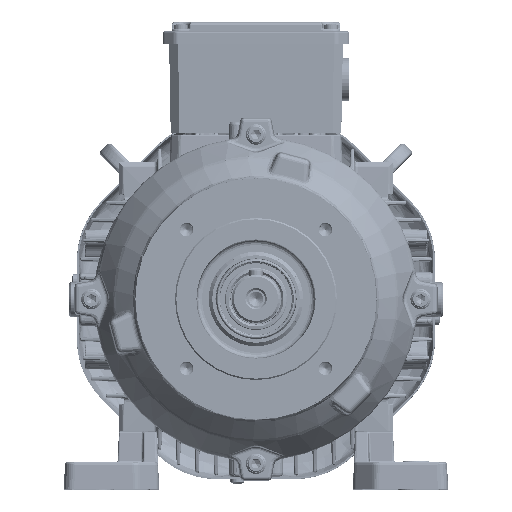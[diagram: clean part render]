
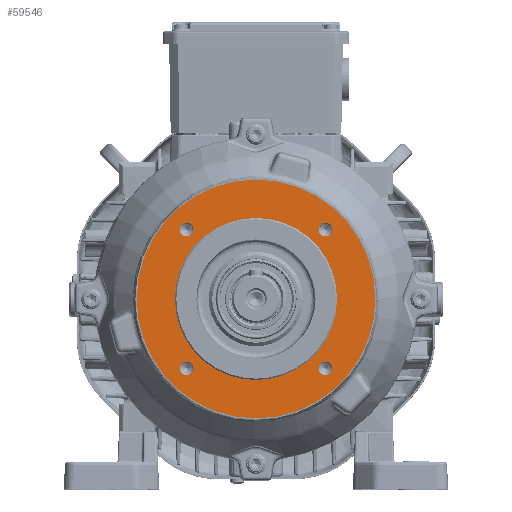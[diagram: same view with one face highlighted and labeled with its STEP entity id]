
A CAD part, top view. The second image highlights one B-rep face of the part: STEP entity #59546.
In plain terms, the highlighted planar face has unit normal (0, 0, 1).
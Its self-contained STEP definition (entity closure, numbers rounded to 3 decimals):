
#50058=PLANE('',#218793);
#59546=ADVANCED_FACE('',(#69683,#69684,#69685,#69686,#69687,#69688),#50058,
 .T.);
#69683=FACE_BOUND('',#79809,.T.);
#69684=FACE_BOUND('',#79810,.T.);
#69685=FACE_BOUND('',#79811,.T.);
#69686=FACE_BOUND('',#79812,.T.);
#69687=FACE_BOUND('',#79813,.T.);
#69688=FACE_BOUND('',#79814,.T.);
#79809=EDGE_LOOP('',(#123803));
#79810=EDGE_LOOP('',(#123804));
#79811=EDGE_LOOP('',(#123805));
#79812=EDGE_LOOP('',(#123806));
#79813=EDGE_LOOP('',(#123807));
#79814=EDGE_LOOP('',(#123808));
#123803=ORIENTED_EDGE('',*,*,#181903,.T.);
#123804=ORIENTED_EDGE('',*,*,#181904,.T.);
#123805=ORIENTED_EDGE('',*,*,#181905,.T.);
#123806=ORIENTED_EDGE('',*,*,#181906,.T.);
#123807=ORIENTED_EDGE('',*,*,#181907,.T.);
#123808=ORIENTED_EDGE('',*,*,#181908,.T.);
#156357=VERTEX_POINT('',#397517);
#156358=VERTEX_POINT('',#397519);
#156359=VERTEX_POINT('',#397521);
#156360=VERTEX_POINT('',#397523);
#156361=VERTEX_POINT('',#397525);
#156362=VERTEX_POINT('',#397527);
#181903=EDGE_CURVE('',#156357,#156357,#199782,.T.);
#181904=EDGE_CURVE('',#156358,#156358,#199783,.T.);
#181905=EDGE_CURVE('',#156359,#156359,#199784,.T.);
#181906=EDGE_CURVE('',#156360,#156360,#199785,.T.);
#181907=EDGE_CURVE('',#156361,#156361,#199786,.T.);
#181908=EDGE_CURVE('',#156362,#156362,#199787,.T.);
#199782=CIRCLE('',#218787,4.);
#199783=CIRCLE('',#218788,4.);
#199784=CIRCLE('',#218789,4.);
#199785=CIRCLE('',#218790,4.);
#199786=CIRCLE('',#218791,47.5);
#199787=CIRCLE('',#218792,70.);
#218787=AXIS2_PLACEMENT_3D('',#397516,#262376,#262377);
#218788=AXIS2_PLACEMENT_3D('',#397518,#262378,#262379);
#218789=AXIS2_PLACEMENT_3D('',#397520,#262380,#262381);
#218790=AXIS2_PLACEMENT_3D('',#397522,#262382,#262383);
#218791=AXIS2_PLACEMENT_3D('',#397524,#262384,#262385);
#218792=AXIS2_PLACEMENT_3D('',#397526,#262386,#262387);
#218793=AXIS2_PLACEMENT_3D('',#397528,#262388,#262389);
#262376=DIRECTION('',(0.,0.,-1.));
#262377=DIRECTION('',(1.,0.,0.));
#262378=DIRECTION('',(0.,0.,-1.));
#262379=DIRECTION('',(1.,0.,0.));
#262380=DIRECTION('',(0.,0.,-1.));
#262381=DIRECTION('',(1.,0.,0.));
#262382=DIRECTION('',(0.,0.,-1.));
#262383=DIRECTION('',(1.,0.,0.));
#262384=DIRECTION('',(0.,0.,-1.));
#262385=DIRECTION('',(-1.,0.,0.));
#262386=DIRECTION('',(0.,0.,1.));
#262387=DIRECTION('',(-1.,0.,0.));
#262388=DIRECTION('',(0.,0.,1.));
#262389=DIRECTION('',(1.,0.,0.));
#397516=CARTESIAN_POINT('',(-40.659,40.659,60.));
#397517=CARTESIAN_POINT('',(-36.659,40.659,60.));
#397518=CARTESIAN_POINT('',(40.659,40.659,60.));
#397519=CARTESIAN_POINT('',(44.659,40.659,60.));
#397520=CARTESIAN_POINT('',(40.659,-40.659,60.));
#397521=CARTESIAN_POINT('',(44.659,-40.659,60.));
#397522=CARTESIAN_POINT('',(-40.659,-40.659,60.));
#397523=CARTESIAN_POINT('',(-36.659,-40.659,60.));
#397524=CARTESIAN_POINT('',(0.,0.,60.));
#397525=CARTESIAN_POINT('',(-47.5,0.,60.));
#397526=CARTESIAN_POINT('',(0.,0.,60.));
#397527=CARTESIAN_POINT('',(-70.,0.,60.));
#397528=CARTESIAN_POINT('',(0.,0.,60.));
